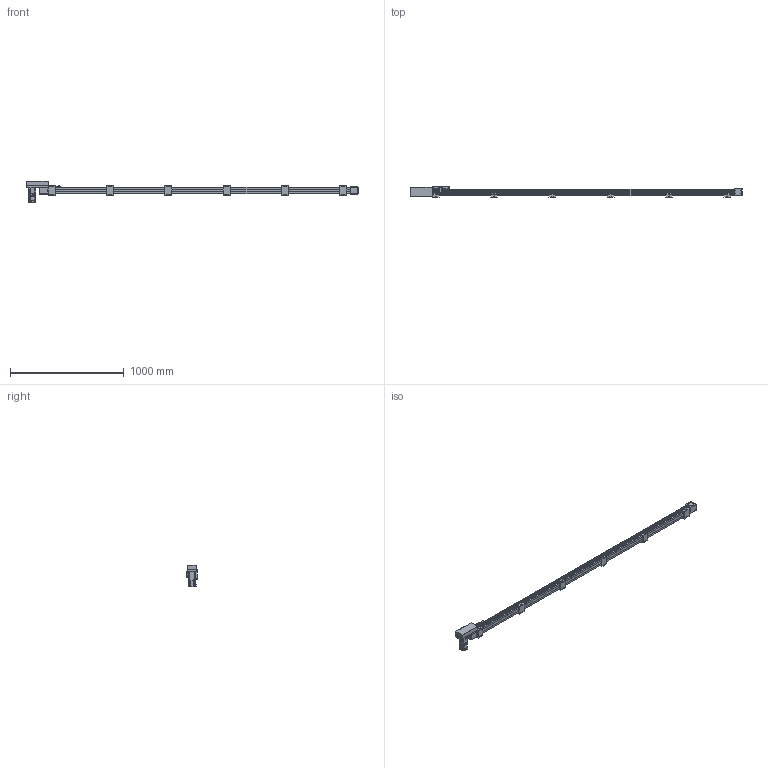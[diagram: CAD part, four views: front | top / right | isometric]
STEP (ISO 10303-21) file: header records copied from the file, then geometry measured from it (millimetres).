
FILE_DESCRIPTION(/* description */ ('STEP AP214'),/* implementation_level */ '2;1');
FILE_NAME(/* name */ 'SK60-P13-S2500-R-T40-C1-N(0)',/* time_stamp */ '2023-04-06T04:28:35+02:00',/* author */ ('License CC BY-ND 4.0'),/* organization */ ('CADENAS'),/* preprocessor_version */ 'ST-DEVELOPER v19.3',/* originating_system */ 'PARTsolutions',/* authorisation */ ' ');
FILE_SCHEMA (('AUTOMOTIVE_DESIGN {1 0 10303 214 3 1 1}'));
Length unit declared in the file: millimetre
Products named in the file (10): SK60-P13-S2500-R-T40-C1-N(0); PSC140-sensor; SK60-S450_seat; SK60-S450-BL-C1_slider; SK60_body3; SK60_body6; SK60-BL_body2; T40-p1; SK60-R_fb; SK60-S2500-R-C1_body
Assembly tree (20 placements, depth 2):
  SK60-P13-S2500-R-T40-C1-N(0)
    PSC140-sensor  x3
    SK60-S450_seat  x6
    SK60-S450-BL-C1_slider
    SK60_body3  x3
    SK60_body6  x2
    SK60-BL_body2  x2
    T40-p1
    SK60-R_fb
    SK60-S2500-R-C1_body
Bounding box: 2920.5 x 90 x 189.7 mm (x, y, z)
Volume: 10766496.6 mm3; surface area: 1278422.2 mm2
Topology: 20 solids, 20 shells, 986 faces, 2440 edges, 1605 vertices
Faces by surface type: plane 620, cylinder 326, cone 38, torus 2
Full cylindrical faces by diameter (mm): 2.8 x3, 3.3 x4, 4 x2, 4.5 x30, 4.6 x3, 4.917 x32, 5 x6, 5.478 x4, 5.5 x35, 6.5 x12, 7 x2, 8 x4, 8.5 x4, 9.988 x4, 10 x24, 14 x1, 47 x3, 50 x2
Entity records: 18687 total; most frequent: DIRECTION 3192, CARTESIAN_POINT 3154, ORIENTED_EDGE 2940, EDGE_CURVE 1470, AXIS2_PLACEMENT_3D 1072, LINE 1048, VECTOR 1048, VERTEX_POINT 1034
